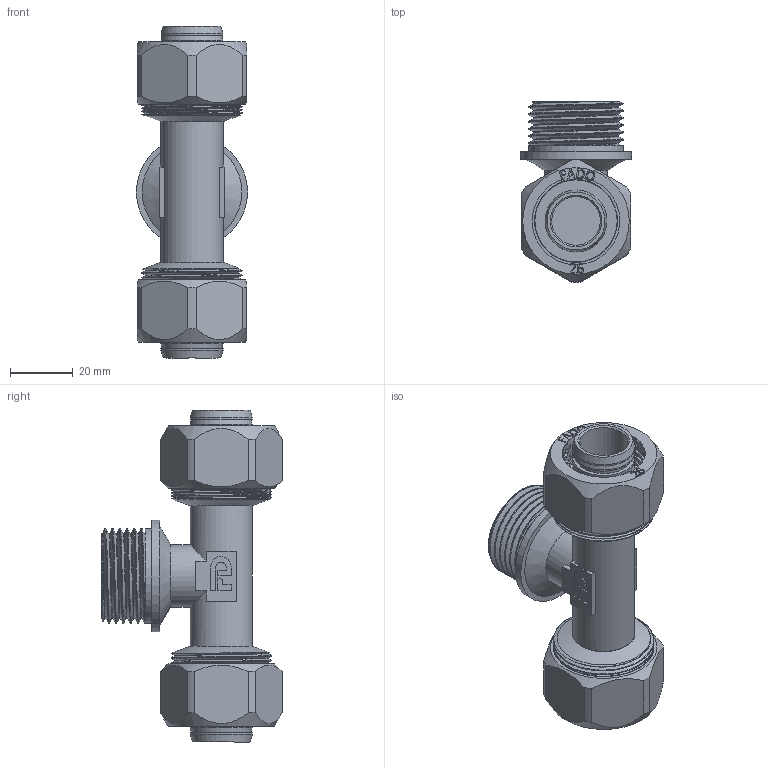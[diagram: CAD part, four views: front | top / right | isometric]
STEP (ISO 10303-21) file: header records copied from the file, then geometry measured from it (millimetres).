
FILE_DESCRIPTION(/* description */ (''),/* implementation_level */ '2;1');
FILE_NAME(/* name */ 'C:\Users\Doom\Desktop\Фадотех\Обжим\RFT24 26x34Mx26 30.03.2020\RFT24 26x34Mx26 30.03.2020.0083.stp',/* time_stamp */ '2022-06-01T14:20:14+03:00',/* author */ ('Doom'),/* organization */ (''),/* preprocessor_version */ 'ST-DEVELOPER v18',/* originating_system */ 'Autodesk Inventor 2020',/* authorisation */ '');
FILE_SCHEMA (('AUTOMOTIVE_DESIGN { 1 0 10303 214 3 1 1 }'));
Length unit declared in the file: millimetre
Products named in the file (5): Сборка20; Olive 26 15.02.2020; FADO MC Socket-26 15.02.2020; RFT23 26x1Mx26 30.03.2020; FADO MC Nut-26 15.02.2020
Assembly tree (7 placements, depth 2):
  Сборка20
    Olive 26 15.02.2020  x2
    FADO MC Socket-26 15.02.2020  x2
    FADO MC Nut-26 15.02.2020  x2
    RFT23 26x1Mx26 30.03.2020
Bounding box: 35.5 x 57.7 x 106 mm (x, y, z)
Volume: 43801.8 mm3; surface area: 57013.5 mm2
Topology: 12 solids, 12 shells, 1080 faces, 2997 edges, 2025 vertices
Faces by surface type: bspline 546, plane 318, cylinder 171, cone 39, torus 6
Full cylindrical faces by diameter (mm): 15.5 x2, 16 x2, 17.6 x4, 19.8 x12, 21 x2, 24 x4, 24.5 x3, 26.5 x2, 26.866 x2, 29.776 x2, 30 x2, 30.29 x6, 30.517 x24, 30.6 x2, 32 x21, 35.5 x1
Entity records: 43313 total; most frequent: CARTESIAN_POINT 29239, ORIENTED_EDGE 3402, DIRECTION 2003, EDGE_CURVE 1701, VERTEX_POINT 1151, LINE 685, VECTOR 685, B_SPLINE_CURVE_WITH_KNOTS 681
